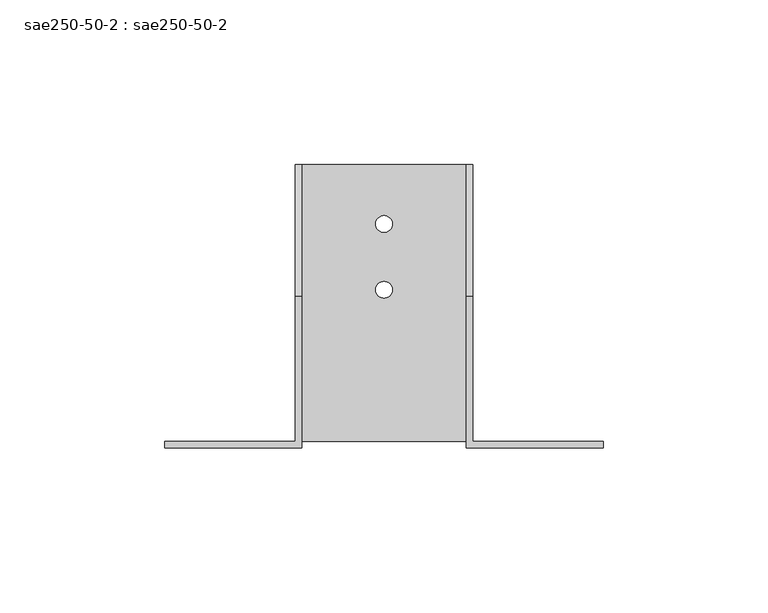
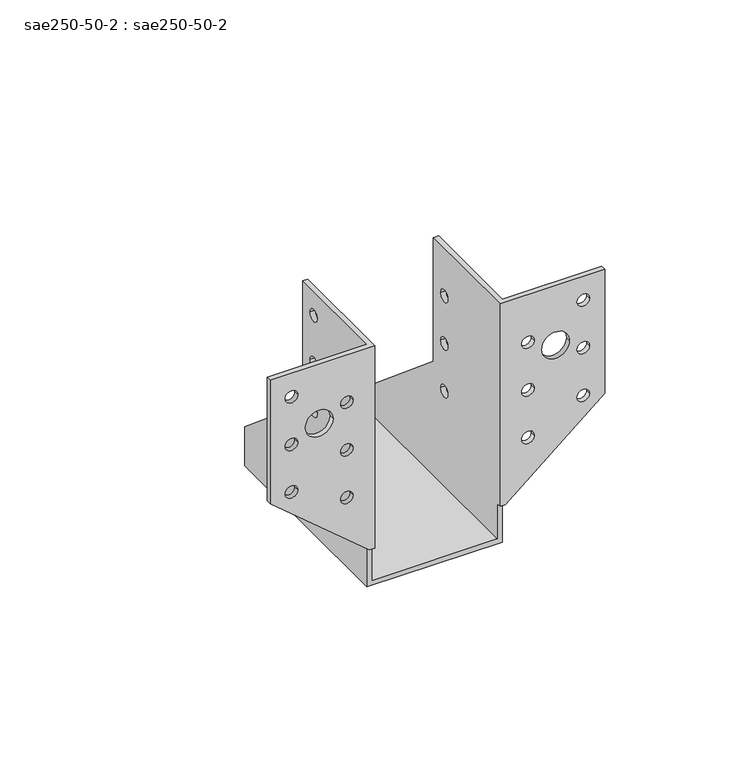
"""IFC4 building model written with IfcOpenShell, lengths in millimetres: fastener geometry, sae250-50-2 : sae250-50-2."""

from ifc_helpers import new_model, si_unit, frame, origin, place, context, project, spatial, polyline, circle_curve, source, transform, mapped, element, save
from ifc_brep_helpers import plane_surface, revolved_surface, advanced_brep


def sae250_50_2_sae250_50_2_80a18d80(model_context):
    return source(origin(), model_context, "Body", "AdvancedBrep", [
        advanced_brep(
        [(33.5, 2.0, 80.0), (38.5, 2.0, 80.0), (38.5, 0.0, 80.0), (33.5, 0.0, 80.0), (55.5, 2.0, 90.0), (60.5, 2.0, 90.0), (60.5, 0.0, 90.0), (55.5, 0.0, 90.0), (33.5, 2.0, 60.0), (38.5, 2.0, 60.0), (38.5, 0.0, 60.0), (33.5, 0.0, 60.0), (55.5, 2.0, 70.0), (60.5, 2.0, 70.0), (60.5, 0.0, 70.0), (55.5, 0.0, 70.0), (33.5, 2.0, 40.0), (38.5, 2.0, 40.0), (38.5, 0.0, 40.0), (33.5, 0.0, 40.0), (55.5, 2.0, 50.0), (60.5, 2.0, 50.0), (60.5, 0.0, 50.0), (55.5, 0.0, 50.0), (52.5, 0.0, 75.0), (41.5, 0.0, 75.0), (41.5, 2.0, 75.0), (52.5, 2.0, 75.0), (-33.5, 2.0, 80.0), (-38.5, 2.0, 80.0), (-38.5, 0.0, 80.0), (-33.5, 0.0, 80.0), (-55.5, 2.0, 90.0), (-60.5, 2.0, 90.0), (-60.5, 0.0, 90.0), (-55.5, 0.0, 90.0), (-33.5, 2.0, 60.0), (-38.5, 2.0, 60.0), (-38.5, 0.0, 60.0), (-33.5, 0.0, 60.0), (-55.5, 2.0, 70.0), (-60.5, 2.0, 70.0), (-60.5, 0.0, 70.0), (-55.5, 0.0, 70.0), (-33.5, 2.0, 40.0), (-38.5, 2.0, 40.0), (-38.5, 0.0, 40.0), (-33.5, 0.0, 40.0), (-55.5, 2.0, 50.0), (-60.5, 2.0, 50.0), (-60.5, 0.0, 50.0), (-55.5, 0.0, 50.0), (-52.5, 0.0, 75.0), (-41.5, 0.0, 75.0), (-41.5, 2.0, 75.0), (-52.5, 2.0, 75.0), (25.0, 36.0, 40.0), (25.0, 41.0, 40.0), (27.0, 41.0, 40.0), (27.0, 36.0, 40.0), (25.0, 36.0, 80.0), (25.0, 41.0, 80.0), (27.0, 41.0, 80.0), (27.0, 36.0, 80.0), (25.0, 36.0, 60.0), (25.0, 41.0, 60.0), (27.0, 41.0, 60.0), (27.0, 36.0, 60.0), (-25.0, 41.0, 90.0), (-25.0, 36.0, 90.0), (-27.0, 36.0, 90.0), (-27.0, 41.0, 90.0), (-25.0, 41.0, 70.0), (-25.0, 36.0, 70.0), (-27.0, 36.0, 70.0), (-27.0, 41.0, 70.0), (-25.0, 41.0, 50.0), (-25.0, 36.0, 50.0), (-27.0, 36.0, 50.0), (-27.0, 41.0, 50.0), (-25.0, 41.0, 30.0), (-25.0, 36.0, 30.0), (-27.0, 36.0, 30.0), (-27.0, 41.0, 30.0), (2.5, 68.0, -2.0), (-2.5, 68.0, -2.0), (-2.5, 68.0, 0.0), (2.5, 68.0, 0.0), (2.5, 48.0, -2.0), (-2.5, 48.0, -2.0), (-2.5, 48.0, 0.0), (2.5, 48.0, 0.0), (-25.0, 86.0, 0.0), (-25.0, 86.0, 14.4360148), (-25.0, 46.0, 48.0), (-25.0, 46.0, 100.0), (-25.0, 0.0, 100.0), (-25.0, 0.0, 14.8555646), (-25.0, 2.0, 14.8555646), (-25.0, 2.0, 0.0), (-27.0, 2.0, 14.8555646), (-66.5, 2.0, 48.0), (-66.5, 2.0, 100.0), (-27.0, 2.0, 100.0), (-66.5, 0.0, 100.0), (-66.5, 0.0, 48.0), (-27.0, 0.0, 14.8555646), (-27.0, 86.0, 14.4360148), (-27.0, 46.0, 48.0), (-27.0, 46.0, 100.0), (-27.0, 86.0, -2.0), (-27.0, 2.0, -2.0), (27.0, 2.0, 100.0), (66.5, 2.0, 100.0), (66.5, 2.0, 48.0), (27.0, 2.0, 14.8555646), (66.5, 0.0, 48.0), (66.5, 0.0, 100.0), (27.0, 0.0, 14.8555646), (25.0, 0.0, 14.8555646), (25.0, 2.0, 14.8555646), (25.0, 0.0, 100.0), (25.0, 2.0, 0.0), (25.0, 46.0, 100.0), (25.0, 46.0, 48.0), (25.0, 86.0, 14.4360148), (25.0, 86.0, 0.0), (27.0, 46.0, 48.0), (27.0, 86.0, 14.4360148), (27.0, 46.0, 100.0), (27.0, 2.0, -2.0), (27.0, 86.0, -2.0)],
        [
            (0, 1, circle_curve(frame((36.0, 2.0, 80.0), z_axis=(0.0, 1.0, 0.0), x_axis=(-1.0, 0.0, 0.0)), 2.5)),
            (1, 2),
            (2, 3, circle_curve(frame((36.0, 0.0, 80.0), z_axis=(0.0, -1.0, 0.0), x_axis=(-1.0, 0.0, 0.0)), 2.5)),
            (3, 0),
            (4, 5, circle_curve(frame((58.0, 2.0, 90.0), z_axis=(0.0, 1.0, 0.0), x_axis=(-1.0, 0.0, 0.0)), 2.5)),
            (5, 6),
            (6, 7, circle_curve(frame((58.0, 0.0, 90.0), z_axis=(0.0, -1.0, 0.0), x_axis=(-1.0, 0.0, 0.0)), 2.5)),
            (7, 4),
            (8, 9, circle_curve(frame((36.0, 2.0, 60.0), z_axis=(0.0, 1.0, 0.0), x_axis=(-1.0, 0.0, 0.0)), 2.5)),
            (9, 10),
            (10, 11, circle_curve(frame((36.0, 0.0, 60.0), z_axis=(0.0, -1.0, 0.0), x_axis=(-1.0, 0.0, 0.0)), 2.5)),
            (11, 8),
            (12, 13, circle_curve(frame((58.0, 2.0, 70.0), z_axis=(0.0, 1.0, 0.0), x_axis=(-1.0, 0.0, 0.0)), 2.5)),
            (13, 14),
            (14, 15, circle_curve(frame((58.0, 0.0, 70.0), z_axis=(0.0, -1.0, 0.0), x_axis=(-1.0, 0.0, 0.0)), 2.5)),
            (15, 12),
            (16, 17, circle_curve(frame((36.0, 2.0, 40.0), z_axis=(0.0, 1.0, 0.0), x_axis=(-1.0, 0.0, 0.0)), 2.5)),
            (17, 18),
            (18, 19, circle_curve(frame((36.0, 0.0, 40.0), z_axis=(0.0, -1.0, 0.0), x_axis=(-1.0, 0.0, 0.0)), 2.5)),
            (19, 16),
            (20, 21, circle_curve(frame((58.0, 2.0, 50.0), z_axis=(0.0, 1.0, 0.0), x_axis=(-1.0, 0.0, 0.0)), 2.5)),
            (21, 22),
            (22, 23, circle_curve(frame((58.0, 0.0, 50.0), z_axis=(0.0, -1.0, 0.0), x_axis=(-1.0, 0.0, 0.0)), 2.5)),
            (23, 20),
            (24, 25, circle_curve(frame((47.0, 0.0, 75.0), z_axis=(0.0, -1.0, 0.0), x_axis=(1.0, 0.0, 0.0)), 5.5)),
            (25, 26),
            (26, 27, circle_curve(frame((47.0, 2.0, 75.0), z_axis=(0.0, 1.0, 0.0), x_axis=(1.0, 0.0, 0.0)), 5.5)),
            (27, 24),
            (28, 29, circle_curve(frame((-36.0, 2.0, 80.0), z_axis=(0.0, 1.0, 0.0), x_axis=(1.0, 0.0, 0.0)), 2.5)),
            (29, 30),
            (30, 31, circle_curve(frame((-36.0, 0.0, 80.0), z_axis=(0.0, -1.0, 0.0), x_axis=(1.0, 0.0, 0.0)), 2.5)),
            (31, 28),
            (32, 33, circle_curve(frame((-58.0, 2.0, 90.0), z_axis=(0.0, 1.0, 0.0), x_axis=(1.0, 0.0, 0.0)), 2.5)),
            (33, 34),
            (34, 35, circle_curve(frame((-58.0, 0.0, 90.0), z_axis=(0.0, -1.0, 0.0), x_axis=(1.0, 0.0, 0.0)), 2.5)),
            (35, 32),
            (36, 37, circle_curve(frame((-36.0, 2.0, 60.0), z_axis=(0.0, 1.0, 0.0), x_axis=(1.0, 0.0, 0.0)), 2.5)),
            (37, 38),
            (38, 39, circle_curve(frame((-36.0, 0.0, 60.0), z_axis=(0.0, -1.0, 0.0), x_axis=(1.0, 0.0, 0.0)), 2.5)),
            (39, 36),
            (40, 41, circle_curve(frame((-58.0, 2.0, 70.0), z_axis=(0.0, 1.0, 0.0), x_axis=(1.0, 0.0, 0.0)), 2.5)),
            (41, 42),
            (42, 43, circle_curve(frame((-58.0, 0.0, 70.0), z_axis=(0.0, -1.0, 0.0), x_axis=(1.0, 0.0, 0.0)), 2.5)),
            (43, 40),
            (44, 45, circle_curve(frame((-36.0, 2.0, 40.0), z_axis=(0.0, 1.0, 0.0), x_axis=(1.0, 0.0, 0.0)), 2.5)),
            (45, 46),
            (46, 47, circle_curve(frame((-36.0, 0.0, 40.0), z_axis=(0.0, -1.0, 0.0), x_axis=(1.0, 0.0, 0.0)), 2.5)),
            (47, 44),
            (48, 49, circle_curve(frame((-58.0, 2.0, 50.0), z_axis=(0.0, 1.0, 0.0), x_axis=(1.0, 0.0, 0.0)), 2.5)),
            (49, 50),
            (50, 51, circle_curve(frame((-58.0, 0.0, 50.0), z_axis=(0.0, -1.0, 0.0), x_axis=(1.0, 0.0, 0.0)), 2.5)),
            (51, 48),
            (52, 53, circle_curve(frame((-47.0, 0.0, 75.0), z_axis=(0.0, -1.0, 0.0), x_axis=(-1.0, 0.0, 0.0)), 5.5)),
            (53, 54),
            (54, 55, circle_curve(frame((-47.0, 2.0, 75.0), z_axis=(0.0, 1.0, 0.0), x_axis=(-1.0, 0.0, 0.0)), 5.5)),
            (55, 52),
            (56, 57, circle_curve(frame((25.0, 38.5, 40.0), z_axis=(-1.0, 0.0, 0.0), x_axis=(0.0, -1.0, 0.0)), 2.5)),
            (57, 58),
            (58, 59, circle_curve(frame((27.0, 38.5, 40.0), z_axis=(1.0, 0.0, 0.0), x_axis=(0.0, -1.0, 0.0)), 2.5)),
            (59, 56),
            (60, 61, circle_curve(frame((25.0, 38.5, 80.0), z_axis=(-1.0, 0.0, 0.0), x_axis=(0.0, -1.0, 0.0)), 2.5)),
            (61, 62),
            (62, 63, circle_curve(frame((27.0, 38.5, 80.0), z_axis=(1.0, 0.0, 0.0), x_axis=(0.0, -1.0, 0.0)), 2.5)),
            (63, 60),
            (64, 65, circle_curve(frame((25.0, 38.5, 60.0), z_axis=(-1.0, 0.0, 0.0), x_axis=(0.0, -1.0, 0.0)), 2.5)),
            (65, 66),
            (66, 67, circle_curve(frame((27.0, 38.5, 60.0), z_axis=(1.0, 0.0, 0.0), x_axis=(0.0, -1.0, 0.0)), 2.5)),
            (67, 64),
            (68, 69, circle_curve(frame((-25.0, 38.5, 90.0), z_axis=(1.0, 0.0, 0.0), x_axis=(0.0, 1.0, 0.0)), 2.5)),
            (69, 70),
            (70, 71, circle_curve(frame((-27.0, 38.5, 90.0), z_axis=(-1.0, 0.0, 0.0), x_axis=(0.0, 1.0, 0.0)), 2.5)),
            (71, 68),
            (72, 73, circle_curve(frame((-25.0, 38.5, 70.0), z_axis=(1.0, 0.0, 0.0), x_axis=(0.0, 1.0, 0.0)), 2.5)),
            (73, 74),
            (74, 75, circle_curve(frame((-27.0, 38.5, 70.0), z_axis=(-1.0, 0.0, 0.0), x_axis=(0.0, 1.0, 0.0)), 2.5)),
            (75, 72),
            (76, 77, circle_curve(frame((-25.0, 38.5, 50.0), z_axis=(1.0, 0.0, 0.0), x_axis=(0.0, 1.0, 0.0)), 2.5)),
            (77, 78),
            (78, 79, circle_curve(frame((-27.0, 38.5, 50.0), z_axis=(-1.0, 0.0, 0.0), x_axis=(0.0, 1.0, 0.0)), 2.5)),
            (79, 76),
            (80, 81, circle_curve(frame((-25.0, 38.5, 30.0), z_axis=(1.0, 0.0, 0.0), x_axis=(0.0, 1.0, 0.0)), 2.5)),
            (81, 82),
            (82, 83, circle_curve(frame((-27.0, 38.5, 30.0), z_axis=(-1.0, 0.0, 0.0), x_axis=(0.0, 1.0, 0.0)), 2.5)),
            (83, 80),
            (84, 85, circle_curve(frame((0.0, 68.0, -2.0), z_axis=(0.0, 0.0, -1.0), x_axis=(1.0, 0.0, 0.0)), 2.5)),
            (85, 86),
            (86, 87, circle_curve(frame((0.0, 68.0, 0.0), z_axis=(0.0, 0.0, 1.0), x_axis=(1.0, 0.0, 0.0)), 2.5)),
            (87, 84),
            (88, 89, circle_curve(frame((0.0, 48.0, -2.0), z_axis=(0.0, 0.0, -1.0), x_axis=(1.0, 0.0, 0.0)), 2.5)),
            (89, 90),
            (90, 91, circle_curve(frame((0.0, 48.0, 0.0), z_axis=(0.0, 0.0, 1.0), x_axis=(1.0, 0.0, 0.0)), 2.5)),
            (91, 88),
            (91, 90, circle_curve(frame((0.0, 48.0, 0.0), z_axis=(0.0, 0.0, 1.0), x_axis=(1.0, 0.0, 0.0)), 2.5)),
            (89, 88, circle_curve(frame((0.0, 48.0, -2.0), z_axis=(0.0, 0.0, -1.0), x_axis=(1.0, 0.0, 0.0)), 2.5)),
            (87, 86, circle_curve(frame((0.0, 68.0, 0.0), z_axis=(0.0, 0.0, 1.0), x_axis=(1.0, 0.0, 0.0)), 2.5)),
            (85, 84, circle_curve(frame((0.0, 68.0, -2.0), z_axis=(0.0, 0.0, -1.0), x_axis=(1.0, 0.0, 0.0)), 2.5)),
            (83, 82, circle_curve(frame((-27.0, 38.5, 30.0), z_axis=(-1.0, 0.0, 0.0), x_axis=(0.0, 1.0, 0.0)), 2.5)),
            (81, 80, circle_curve(frame((-25.0, 38.5, 30.0), z_axis=(1.0, 0.0, 0.0), x_axis=(0.0, 1.0, 0.0)), 2.5)),
            (79, 78, circle_curve(frame((-27.0, 38.5, 50.0), z_axis=(-1.0, 0.0, 0.0), x_axis=(0.0, 1.0, 0.0)), 2.5)),
            (77, 76, circle_curve(frame((-25.0, 38.5, 50.0), z_axis=(1.0, 0.0, 0.0), x_axis=(0.0, 1.0, 0.0)), 2.5)),
            (75, 74, circle_curve(frame((-27.0, 38.5, 70.0), z_axis=(-1.0, 0.0, 0.0), x_axis=(0.0, 1.0, 0.0)), 2.5)),
            (73, 72, circle_curve(frame((-25.0, 38.5, 70.0), z_axis=(1.0, 0.0, 0.0), x_axis=(0.0, 1.0, 0.0)), 2.5)),
            (71, 70, circle_curve(frame((-27.0, 38.5, 90.0), z_axis=(-1.0, 0.0, 0.0), x_axis=(0.0, 1.0, 0.0)), 2.5)),
            (69, 68, circle_curve(frame((-25.0, 38.5, 90.0), z_axis=(1.0, 0.0, 0.0), x_axis=(0.0, 1.0, 0.0)), 2.5)),
            (67, 66, circle_curve(frame((27.0, 38.5, 60.0), z_axis=(1.0, 0.0, 0.0), x_axis=(0.0, -1.0, 0.0)), 2.5)),
            (65, 64, circle_curve(frame((25.0, 38.5, 60.0), z_axis=(-1.0, 0.0, 0.0), x_axis=(0.0, -1.0, 0.0)), 2.5)),
            (63, 62, circle_curve(frame((27.0, 38.5, 80.0), z_axis=(1.0, 0.0, 0.0), x_axis=(0.0, -1.0, 0.0)), 2.5)),
            (61, 60, circle_curve(frame((25.0, 38.5, 80.0), z_axis=(-1.0, 0.0, 0.0), x_axis=(0.0, -1.0, 0.0)), 2.5)),
            (59, 58, circle_curve(frame((27.0, 38.5, 40.0), z_axis=(1.0, 0.0, 0.0), x_axis=(0.0, -1.0, 0.0)), 2.5)),
            (57, 56, circle_curve(frame((25.0, 38.5, 40.0), z_axis=(-1.0, 0.0, 0.0), x_axis=(0.0, -1.0, 0.0)), 2.5)),
            (55, 54, circle_curve(frame((-47.0, 2.0, 75.0), z_axis=(0.0, 1.0, 0.0), x_axis=(-1.0, 0.0, 0.0)), 5.5)),
            (53, 52, circle_curve(frame((-47.0, 0.0, 75.0), z_axis=(0.0, -1.0, 0.0), x_axis=(-1.0, 0.0, 0.0)), 5.5)),
            (51, 50, circle_curve(frame((-58.0, 0.0, 50.0), z_axis=(0.0, -1.0, 0.0), x_axis=(1.0, 0.0, 0.0)), 2.5)),
            (49, 48, circle_curve(frame((-58.0, 2.0, 50.0), z_axis=(0.0, 1.0, 0.0), x_axis=(1.0, 0.0, 0.0)), 2.5)),
            (47, 46, circle_curve(frame((-36.0, 0.0, 40.0), z_axis=(0.0, -1.0, 0.0), x_axis=(1.0, 0.0, 0.0)), 2.5)),
            (45, 44, circle_curve(frame((-36.0, 2.0, 40.0), z_axis=(0.0, 1.0, 0.0), x_axis=(1.0, 0.0, 0.0)), 2.5)),
            (43, 42, circle_curve(frame((-58.0, 0.0, 70.0), z_axis=(0.0, -1.0, 0.0), x_axis=(1.0, 0.0, 0.0)), 2.5)),
            (41, 40, circle_curve(frame((-58.0, 2.0, 70.0), z_axis=(0.0, 1.0, 0.0), x_axis=(1.0, 0.0, 0.0)), 2.5)),
            (39, 38, circle_curve(frame((-36.0, 0.0, 60.0), z_axis=(0.0, -1.0, 0.0), x_axis=(1.0, 0.0, 0.0)), 2.5)),
            (37, 36, circle_curve(frame((-36.0, 2.0, 60.0), z_axis=(0.0, 1.0, 0.0), x_axis=(1.0, 0.0, 0.0)), 2.5)),
            (35, 34, circle_curve(frame((-58.0, 0.0, 90.0), z_axis=(0.0, -1.0, 0.0), x_axis=(1.0, 0.0, 0.0)), 2.5)),
            (33, 32, circle_curve(frame((-58.0, 2.0, 90.0), z_axis=(0.0, 1.0, 0.0), x_axis=(1.0, 0.0, 0.0)), 2.5)),
            (31, 30, circle_curve(frame((-36.0, 0.0, 80.0), z_axis=(0.0, -1.0, 0.0), x_axis=(1.0, 0.0, 0.0)), 2.5)),
            (29, 28, circle_curve(frame((-36.0, 2.0, 80.0), z_axis=(0.0, 1.0, 0.0), x_axis=(1.0, 0.0, 0.0)), 2.5)),
            (92, 93),
            (93, 94),
            (94, 95),
            (95, 96),
            (96, 97),
            (97, 98),
            (98, 99),
            (99, 92),
            (100, 101),
            (101, 102),
            (102, 103),
            (103, 100),
            (104, 102),
            (101, 105),
            (105, 104),
            (100, 106),
            (106, 105),
            (100, 98),
            (97, 106),
            (96, 104),
            (93, 107),
            (107, 108),
            (108, 94),
            (108, 109),
            (109, 95),
            (109, 103),
            (107, 110),
            (110, 111),
            (111, 100),
            (27, 26, circle_curve(frame((47.0, 2.0, 75.0), z_axis=(0.0, 1.0, 0.0), x_axis=(1.0, 0.0, 0.0)), 5.5)),
            (25, 24, circle_curve(frame((47.0, 0.0, 75.0), z_axis=(0.0, -1.0, 0.0), x_axis=(1.0, 0.0, 0.0)), 5.5)),
            (23, 22, circle_curve(frame((58.0, 0.0, 50.0), z_axis=(0.0, -1.0, 0.0), x_axis=(-1.0, 0.0, 0.0)), 2.5)),
            (21, 20, circle_curve(frame((58.0, 2.0, 50.0), z_axis=(0.0, 1.0, 0.0), x_axis=(-1.0, 0.0, 0.0)), 2.5)),
            (19, 18, circle_curve(frame((36.0, 0.0, 40.0), z_axis=(0.0, -1.0, 0.0), x_axis=(-1.0, 0.0, 0.0)), 2.5)),
            (17, 16, circle_curve(frame((36.0, 2.0, 40.0), z_axis=(0.0, 1.0, 0.0), x_axis=(-1.0, 0.0, 0.0)), 2.5)),
            (15, 14, circle_curve(frame((58.0, 0.0, 70.0), z_axis=(0.0, -1.0, 0.0), x_axis=(-1.0, 0.0, 0.0)), 2.5)),
            (13, 12, circle_curve(frame((58.0, 2.0, 70.0), z_axis=(0.0, 1.0, 0.0), x_axis=(-1.0, 0.0, 0.0)), 2.5)),
            (11, 10, circle_curve(frame((36.0, 0.0, 60.0), z_axis=(0.0, -1.0, 0.0), x_axis=(-1.0, 0.0, 0.0)), 2.5)),
            (9, 8, circle_curve(frame((36.0, 2.0, 60.0), z_axis=(0.0, 1.0, 0.0), x_axis=(-1.0, 0.0, 0.0)), 2.5)),
            (7, 6, circle_curve(frame((58.0, 0.0, 90.0), z_axis=(0.0, -1.0, 0.0), x_axis=(-1.0, 0.0, 0.0)), 2.5)),
            (5, 4, circle_curve(frame((58.0, 2.0, 90.0), z_axis=(0.0, 1.0, 0.0), x_axis=(-1.0, 0.0, 0.0)), 2.5)),
            (3, 2, circle_curve(frame((36.0, 0.0, 80.0), z_axis=(0.0, -1.0, 0.0), x_axis=(-1.0, 0.0, 0.0)), 2.5)),
            (1, 0, circle_curve(frame((36.0, 2.0, 80.0), z_axis=(0.0, 1.0, 0.0), x_axis=(-1.0, 0.0, 0.0)), 2.5)),
            (112, 113),
            (113, 114),
            (114, 115),
            (115, 112),
            (116, 114),
            (113, 117),
            (117, 116),
            (118, 115),
            (116, 118),
            (119, 120),
            (120, 115),
            (118, 119),
            (121, 119),
            (117, 121),
            (122, 120),
            (121, 123),
            (123, 124),
            (124, 125),
            (125, 126),
            (126, 122),
            (124, 127),
            (127, 128),
            (128, 125),
            (123, 129),
            (129, 127),
            (112, 129),
            (130, 131),
            (131, 128),
            (115, 130),
            (131, 110),
            (92, 126),
            (122, 99),
            (111, 130),
        ],
        [
            revolved_surface(polyline([(33.5, 0.0, 80.0), (33.5, 2.0, 80.0)]), (36.0, 1.0, 80.0), (0.0, -1.0, 0.0)),
            revolved_surface(polyline([(55.5, 0.0, 90.0), (55.5, 2.0, 90.0)]), (58.0, 1.0, 90.0), (0.0, -1.0, 0.0)),
            revolved_surface(polyline([(33.5, 0.0, 60.0), (33.5, 2.0, 60.0)]), (36.0, 1.0, 60.0), (0.0, -1.0, 0.0)),
            revolved_surface(polyline([(55.5, 0.0, 70.0), (55.5, 2.0, 70.0)]), (58.0, 1.0, 70.0), (0.0, -1.0, 0.0)),
            revolved_surface(polyline([(33.5, 0.0, 40.0), (33.5, 2.0, 40.0)]), (36.0, 1.0, 40.0), (0.0, -1.0, 0.0)),
            revolved_surface(polyline([(55.5, 0.0, 50.0), (55.5, 2.0, 50.0)]), (58.0, 1.0, 50.0), (0.0, -1.0, 0.0)),
            revolved_surface(polyline([(52.5, 2.0, 75.0), (52.5, 0.0, 75.0)]), (47.0, 1.0, 75.0), (0.0, 1.0, 0.0)),
            revolved_surface(polyline([(-33.5, 2.0, 80.0), (-33.5, 0.0, 80.0)]), (-36.0, 1.0, 80.0), (0.0, 1.0, 0.0)),
            revolved_surface(polyline([(-55.5, 2.0, 90.0), (-55.5, 0.0, 90.0)]), (-58.0, 1.0, 90.0), (0.0, 1.0, 0.0)),
            revolved_surface(polyline([(-33.5, 2.0, 60.0), (-33.5, 0.0, 60.0)]), (-36.0, 1.0, 60.0), (0.0, 1.0, 0.0)),
            revolved_surface(polyline([(-55.5, 2.0, 70.0), (-55.5, 0.0, 70.0)]), (-58.0, 1.0, 70.0), (0.0, 1.0, 0.0)),
            revolved_surface(polyline([(-33.5, 2.0, 40.0), (-33.5, 0.0, 40.0)]), (-36.0, 1.0, 40.0), (0.0, 1.0, 0.0)),
            revolved_surface(polyline([(-55.5, 2.0, 50.0), (-55.5, 0.0, 50.0)]), (-58.0, 1.0, 50.0), (0.0, 1.0, 0.0)),
            revolved_surface(polyline([(-52.5, 0.0, 75.0), (-52.5, 2.0, 75.0)]), (-47.0, 1.0, 75.0), (0.0, -1.0, 0.0)),
            revolved_surface(polyline([(27.0, 36.0, 40.0), (25.0, 36.0, 40.0)]), (26.0, 38.5, 40.0), (1.0, 0.0, 0.0)),
            revolved_surface(polyline([(27.0, 36.0, 80.0), (25.0, 36.0, 80.0)]), (26.0, 38.5, 80.0), (1.0, 0.0, 0.0)),
            revolved_surface(polyline([(27.0, 36.0, 60.0), (25.0, 36.0, 60.0)]), (26.0, 38.5, 60.0), (1.0, 0.0, 0.0)),
            revolved_surface(polyline([(-27.0, 41.0, 90.0), (-25.0, 41.0, 90.0)]), (-26.0, 38.5, 90.0), (-1.0, 0.0, 0.0)),
            revolved_surface(polyline([(-27.0, 41.0, 70.0), (-25.0, 41.0, 70.0)]), (-26.0, 38.5, 70.0), (-1.0, 0.0, 0.0)),
            revolved_surface(polyline([(-27.0, 41.0, 50.0), (-25.0, 41.0, 50.0)]), (-26.0, 38.5, 50.0), (-1.0, 0.0, 0.0)),
            revolved_surface(polyline([(-27.0, 41.0, 30.0), (-25.0, 41.0, 30.0)]), (-26.0, 38.5, 30.0), (-1.0, 0.0, 0.0)),
            revolved_surface(polyline([(2.5, 68.0, 0.0), (2.5, 68.0, -2.0)]), (0.0, 68.0, -1.0), (0.0, 0.0, 1.0)),
            revolved_surface(polyline([(2.5, 48.0, 0.0), (2.5, 48.0, -2.0)]), (0.0, 48.0, -1.0), (0.0, 0.0, 1.0)),
            plane_surface(frame((-25.0, 34.8144652, 42.2363908), z_axis=(1.0, 0.0, 0.0), x_axis=(0.0, 0.0, -1.0))),
            plane_surface(frame((-42.8401804, 2.0, 62.6072098), z_axis=(0.0, 1.0, 0.0), x_axis=(0.0, 0.0, -1.0))),
            plane_surface(frame((-66.5, 0.0, 48.0), z_axis=(-1.0, 0.0, 0.0), x_axis=(0.0, 0.0, 1.0))),
            plane_surface(frame((-27.0, 0.0, 14.8555646), z_axis=(-0.6427876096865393, 0.0, -0.7660444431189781), x_axis=(-0.7660444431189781, 0.0, 0.6427876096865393))),
            plane_surface(frame((-25.0, 0.0, 14.8555646), z_axis=(0.0, 0.0, -1.0), x_axis=(-1.0, 0.0, 0.0))),
            plane_surface(frame((-42.8401804, 0.0, 62.6072098), z_axis=(0.0, -1.0, 0.0), x_axis=(0.0, 0.0, -1.0))),
            plane_surface(frame((-25.0, 46.0, 48.0), z_axis=(0.0, 0.6427876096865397, 0.7660444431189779), x_axis=(0.0, 0.7660444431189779, -0.6427876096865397))),
            plane_surface(frame((-25.0, 46.0, 100.0), z_axis=(0.0, 1.0, 0.0), x_axis=(0.0, 0.0, -1.0))),
            plane_surface(frame((-25.0, 2.0, 100.0), z_axis=(0.0, 0.0, 1.0), x_axis=(0.0, 1.0, 0.0))),
            plane_surface(frame((-27.0, 34.8144652, 42.2363908), z_axis=(-1.0, 0.0, 0.0), x_axis=(0.0, 0.0, -1.0))),
            plane_surface(frame((42.8401804, 2.0, 62.6072098), z_axis=(0.0, 1.0, 0.0), x_axis=(0.0, 0.0, -1.0))),
            plane_surface(frame((66.5, 0.0, 48.0), z_axis=(1.0, 0.0, 0.0), x_axis=(0.0, 0.0, 1.0))),
            plane_surface(frame((27.0, 0.0, 14.8555646), z_axis=(0.6427876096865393, 0.0, -0.7660444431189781), x_axis=(0.7660444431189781, 0.0, 0.6427876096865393))),
            plane_surface(frame((25.0, 0.0, 14.8555646), z_axis=(0.0, 0.0, -1.0), x_axis=(1.0, 0.0, 0.0))),
            plane_surface(frame((42.8401804, 0.0, 62.6072098), z_axis=(0.0, -1.0, 0.0), x_axis=(0.0, 0.0, -1.0))),
            plane_surface(frame((25.0, 34.8144652, 42.2363908), z_axis=(-1.0, 0.0, 0.0), x_axis=(0.0, 0.0, -1.0))),
            plane_surface(frame((25.0, 46.0, 48.0), z_axis=(0.0, 0.6427876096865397, 0.7660444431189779), x_axis=(0.0, 0.7660444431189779, -0.6427876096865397))),
            plane_surface(frame((25.0, 46.0, 100.0), z_axis=(0.0, 1.0, 0.0), x_axis=(0.0, 0.0, -1.0))),
            plane_surface(frame((25.0, 2.0, 100.0), z_axis=(0.0, 0.0, 1.0), x_axis=(0.0, 1.0, 0.0))),
            plane_surface(frame((27.0, 34.8144652, 42.2363908), z_axis=(1.0, 0.0, 0.0), x_axis=(0.0, 0.0, -1.0))),
            plane_surface(frame((25.0, 86.0, 0.0), z_axis=(0.0, 1.0, 0.0), x_axis=(-1.0, 0.0, 0.0))),
            plane_surface(frame((-25.0, 2.0, 0.0), z_axis=(0.0, -1.0, 0.0), x_axis=(1.0, 0.0, 0.0))),
            plane_surface(frame((0.0, 44.0, -2.0), z_axis=(0.0, 0.0, -1.0), x_axis=(1.0, 0.0, 0.0))),
            plane_surface(frame((0.0, 44.0, 0.0), z_axis=(0.0, 0.0, 1.0), x_axis=(1.0, 0.0, 0.0))),
        ],
        [
            (0, [[1, 2, 3, 4]]),
            (1, [[5, 6, 7, 8]]),
            (2, [[9, 10, 11, 12]]),
            (3, [[13, 14, 15, 16]]),
            (4, [[17, 18, 19, 20]]),
            (5, [[21, 22, 23, 24]]),
            (6, [[25, 26, 27, 28]]),
            (7, [[29, 30, 31, 32]]),
            (8, [[33, 34, 35, 36]]),
            (9, [[37, 38, 39, 40]]),
            (10, [[41, 42, 43, 44]]),
            (11, [[45, 46, 47, 48]]),
            (12, [[49, 50, 51, 52]]),
            (13, [[53, 54, 55, 56]]),
            (14, [[57, 58, 59, 60]]),
            (15, [[61, 62, 63, 64]]),
            (16, [[65, 66, 67, 68]]),
            (17, [[69, 70, 71, 72]]),
            (18, [[73, 74, 75, 76]]),
            (19, [[77, 78, 79, 80]]),
            (20, [[81, 82, 83, 84]]),
            (21, [[85, 86, 87, 88]]),
            (22, [[89, 90, 91, 92]]),
            (22, [[93, -90, 94, -92]]),
            (21, [[95, -86, 96, -88]]),
            (20, [[97, -82, 98, -84]]),
            (19, [[99, -78, 100, -80]]),
            (18, [[101, -74, 102, -76]]),
            (17, [[103, -70, 104, -72]]),
            (16, [[105, -66, 106, -68]]),
            (15, [[107, -62, 108, -64]]),
            (14, [[109, -58, 110, -60]]),
            (13, [[111, -54, 112, -56]]),
            (12, [[113, -50, 114, -52]]),
            (11, [[115, -46, 116, -48]]),
            (10, [[117, -42, 118, -44]]),
            (9, [[119, -38, 120, -40]]),
            (8, [[121, -34, 122, -36]]),
            (7, [[123, -30, 124, -32]]),
            (23, [[125, 126, 127, 128, 129, 130, 131, 132], [-104, -69], [-102, -73], [-100, -77], [-98, -81]]),
            (24, [[133, 134, 135, 136], [-124, -29], [-122, -33], [-120, -37], [-118, -41], [-116, -45], [-114, -49], [-55, -111]]),
            (25, [[137, -134, 138, 139]]),
            (26, [[-138, -133, 140, 141]]),
            (27, [[-140, 142, -130, 143]]),
            (28, [[-139, -141, -143, -129, 144], [-112, -53], [-51, -113], [-47, -115], [-43, -117], [-39, -119], [-35, -121], [-31, -123]]),
            (29, [[145, 146, 147, -126]]),
            (30, [[-147, 148, 149, -127]]),
            (31, [[-149, 150, -135, -137, -144, -128]]),
            (32, [[-136, -150, -148, -146, 151, 152, 153], [-83, -97], [-79, -99], [-75, -101], [-71, -103]]),
            (6, [[154, -26, 155, -28]]),
            (5, [[156, -22, 157, -24]]),
            (4, [[158, -18, 159, -20]]),
            (3, [[160, -14, 161, -16]]),
            (2, [[162, -10, 163, -12]]),
            (1, [[164, -6, 165, -8]]),
            (0, [[166, -2, 167, -4]]),
            (33, [[168, 169, 170, 171], [-167, -1], [-165, -5], [-163, -9], [-161, -13], [-159, -17], [-157, -21], [-27, -154]]),
            (34, [[172, -169, 173, 174]]),
            (35, [[175, -170, -172, 176]]),
            (36, [[177, 178, -175, 179]]),
            (37, [[180, -179, -176, -174, 181], [-155, -25], [-23, -156], [-19, -158], [-15, -160], [-11, -162], [-7, -164], [-3, -166]]),
            (38, [[182, -177, -180, 183, 184, 185, 186, 187], [-110, -57], [-108, -61], [-106, -65]]),
            (39, [[188, 189, 190, -185]]),
            (40, [[191, 192, -188, -184]]),
            (41, [[-181, -173, -168, 193, -191, -183]]),
            (42, [[194, 195, -189, -192, -193, -171, 196], [-67, -105], [-63, -107], [-59, -109]]),
            (43, [[-186, -190, -195, 197, -151, -145, -125, 198]]),
            (44, [[-182, 199, -131, -142, -153, 200, -196, -178]]),
            (45, [[-152, -197, -194, -200], [-96, -85], [-94, -89]]),
            (46, [[-187, -198, -132, -199], [-91, -93], [-87, -95]]),
        ],
    ),
    ])


if __name__ == "__main__":
    model = new_model("IFC4")
    model_context = context("Model", 3, world=origin())
    ifc_project = project(units=[si_unit("LENGTHUNIT", "METRE", prefix="MILLI")], contexts=[model_context])
    site = spatial("IfcSite", under=ifc_project)
    building = spatial("IfcBuilding", under=site)
    placement = place(None, origin())
    sae250_50_2_sae250_50_2_shape = sae250_50_2_sae250_50_2_80a18d80(model_context)
    element("IfcFastener", 1, ObjectType="sae250-50-2 : sae250-50-2", at=placement, inside=building, context=model_context, shape_type="MappedRepresentation", body=[
        mapped(sae250_50_2_sae250_50_2_shape, transform((0.0, 0.0, 0.0), x_axis=(1.0, 0.0, 0.0), y_axis=(0.0, 1.0, 0.0), z_axis=(0.0, 0.0, 1.0))),
    ])
    save(model, "model.ifc")
